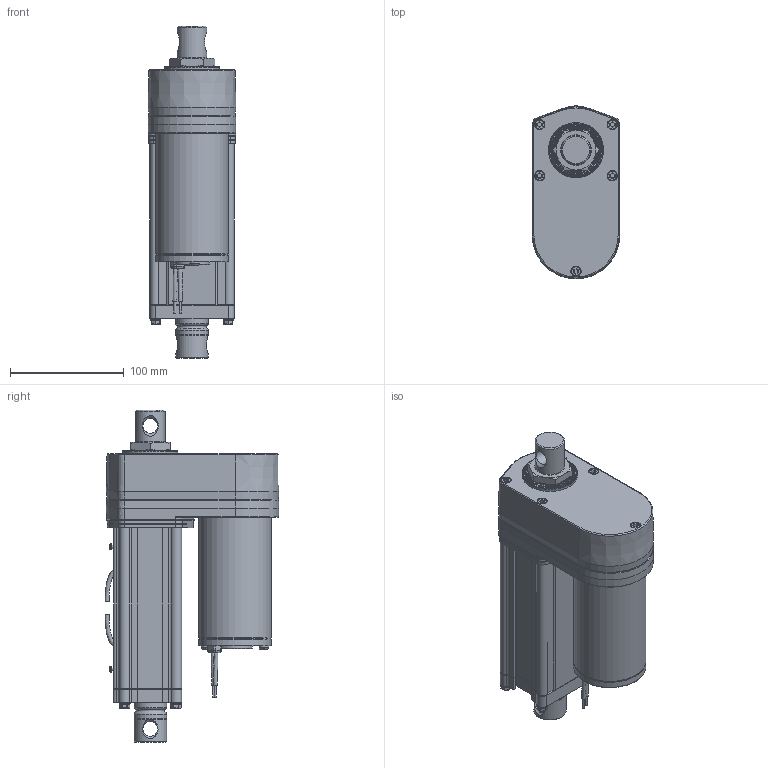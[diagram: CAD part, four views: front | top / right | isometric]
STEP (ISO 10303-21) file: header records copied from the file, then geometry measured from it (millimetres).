
FILE_DESCRIPTION (( 'STEP AP203' ), '1' );
FILE_NAME ('ID12-A-ERS-100.STEP', '2014-06-09T07:13:31', ( '' ), ( '' ), 'SwSTEP 2.0', 'SolidWorks 2013', '' );
FILE_SCHEMA (( 'CONFIG_CONTROL_DESIGN' ));
Length unit declared in the file: millimetre
Products named in the file (3): ID12-A-ERS-100-2; ID12-A-ERS-100; ID12-A-ERS-100-1
Assembly tree (2 placements, depth 2):
  ID12-A-ERS-100
    ID12-A-ERS-100-1
    ID12-A-ERS-100-2
Bounding box: 77.15 x 152.82 x 291.8 mm (x, y, z)
Volume: 1590223.4 mm3; surface area: 162388 mm2
Topology: 2 solids, 2 shells, 1171 faces, 3112 edges, 1962 vertices
Faces by surface type: plane 760, cylinder 263, torus 56, cone 49, bspline 35, sphere 8
Full cylindrical faces by diameter (mm): 1.8 x2, 2.95 x8, 3.6 x2, 5.08 x4, 8.5 x7, 9 x5, 9.4 x4, 13 x2, 26 x1, 28 x1, 28.1 x1, 28.6 x4, 30 x1, 48.2 x1, 63 x1, 63.5 x2
Entity records: 37003 total; most frequent: CARTESIAN_POINT 10077, ORIENTED_EDGE 5926, DIRECTION 5142, EDGE_CURVE 2963, VERTEX_POINT 1923, AXIS2_PLACEMENT_3D 1768, LINE 1606, VECTOR 1606
